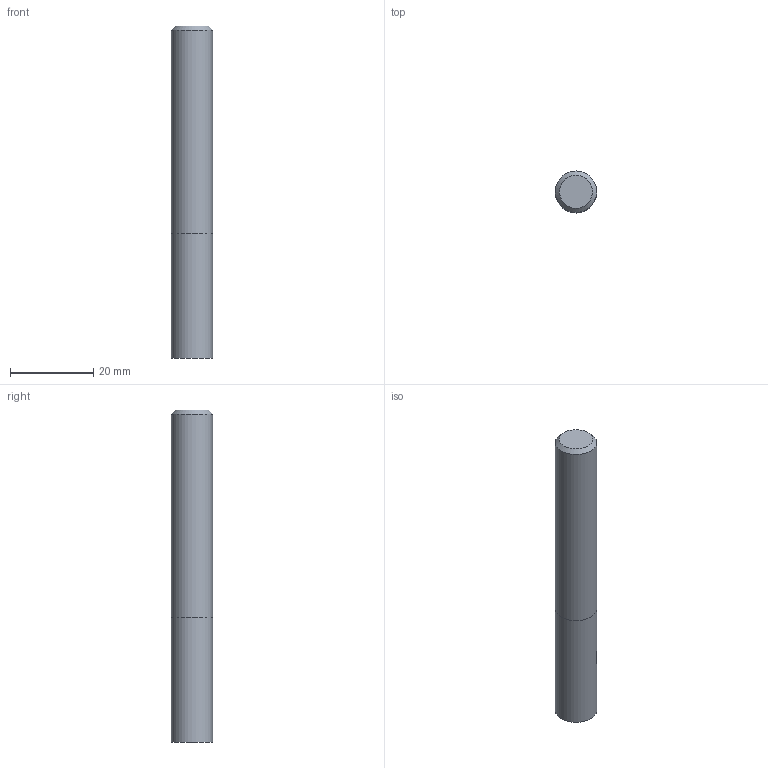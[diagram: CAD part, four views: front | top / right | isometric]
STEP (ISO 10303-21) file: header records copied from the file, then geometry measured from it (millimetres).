
FILE_DESCRIPTION((''),'2;1');
FILE_NAME('C:\Users\nsx150\AppData\Local\Temp\Mastercam 2021\Y59DX2IYLB\TEMP.step','2021-04-08T17:09:57',(''),(''),'STEP Write','Mastercam 2021 ... CNC Software, Inc.','');
FILE_SCHEMA(('AUTOMOTIVE_DESIGN'));
Length unit declared in the file: millimetre
Products named in the file (1): None
Bounding box: 10 x 10 x 80 mm (x, y, z)
Volume: 6268.5 mm3; surface area: 2807.7 mm2
Topology: 2 solids, 2 shells, 7 faces, 8 edges, 5 vertices
Faces by surface type: plane 4, cylinder 2, cone 1
Full cylindrical faces by diameter (mm): 10 x2
Entity records: 169 total; most frequent: DIRECTION 28, CARTESIAN_POINT 19, AXIS2_PLACEMENT_3D 14, ORIENTED_EDGE 10, EDGE_LOOP 10, STYLED_ITEM 10, ADVANCED_FACE 7, VERTEX_POINT 5
